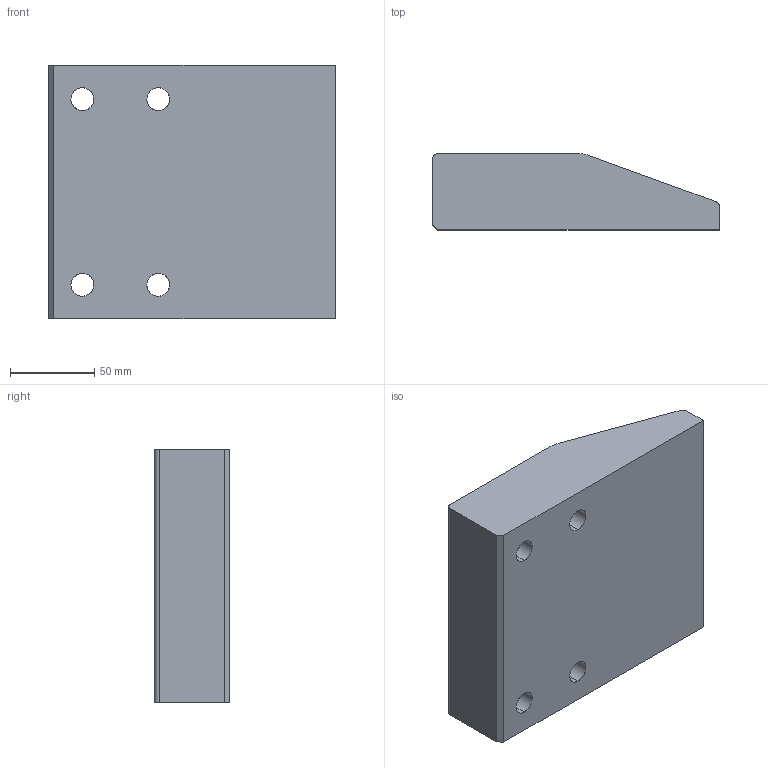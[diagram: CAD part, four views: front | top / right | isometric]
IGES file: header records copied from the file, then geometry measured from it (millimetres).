
Start section: START RECORD GO HERE.
Global section: file name: A935-15017045.igs; native system: DASSAULT SYSTEMES CATIA V5 R20 - www.3ds.com; preprocessor: CATIA Version 5 Release 20 ; author: Utente; organization: NB04-ASUS; date: 20200417.103943; units: millimetre
Bounding box: 170 x 45 x 150 mm (x, y, z)
Surface area: 81944.4 mm2 (no closed solid volume)
Topology: 0 solids, 0 shells, 39 faces, 182 edges, 182 vertices
Faces by surface type: revolution 27, extrusion 12
